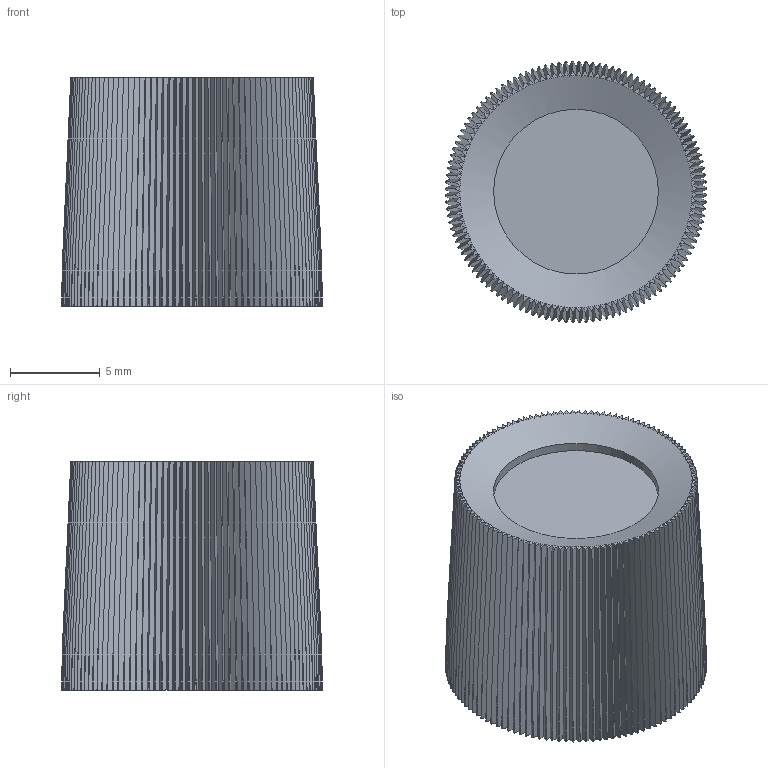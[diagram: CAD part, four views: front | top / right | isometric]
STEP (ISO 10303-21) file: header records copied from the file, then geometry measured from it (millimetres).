
FILE_DESCRIPTION(('STEP AP242 Edition 2','STEP AP242 Edition 2''CAx-IF Rec.Pracs.---Representation and Presentation of Product Manufacturing Information (PMI)---4.0---2014-10-13','STEP AP242 Edition 2''CAx-IF Rec.Pracs.---Representation and Presentation of Product Manufacturing Information (PMI)---4.0---2014-10-13''CAx-IF Rec.Pracs.---3D Tessellated Geometry---0.4---2014-09-14','STEP AP242 Edition 2''CAx-IF Rec.Pracs.---Representation and Presentation of Product Manufacturing Information (PMI)---4.0---2014-10-13''CAx-IF Rec.Pracs.---3D Tessellated Geometry---0.4---2014-09-14''2;1','STEP AP242 Edition 2''CAx-IF Rec.Pracs.---Representation and Presentation of Product Manufacturing Information (PMI)---4.0---2014-10-13''CAx-IF Rec.Pracs.---3D Tessellated Geometry---0.4---2014-09-14''2;1''CAx-IF Rec.Pracs.---User Defined Attributes---1.5---2016-08-15'),'2;1');
FILE_NAME('/vol/tmp/translate-14958899252267850940/3D_PCB_PCB_ESP32-sd-int_2026-03-29nosilk - Surface 6.step','2026-03-31T16:57:28',(''),(''),'ST-DEVELOPER v20','ONSHAPE BY PTC INC, 1.212',' ');
FILE_SCHEMA(('AP242_MANAGED_MODEL_BASED_3D_ENGINEERING_MIM_LF { 1 0 10303 442 3 1 4 }'));
Length unit declared in the file: metre
Products named in the file (1): Part 1
Bounding box: 14.56 x 14.56 x 12.75 mm (x, y, z)
Volume: 1717 mm3; surface area: 1542.3 mm2
Topology: 1 solids, 1 shells, 487 faces, 1451 edges, 967 vertices
Faces by surface type: plane 364, cone 121, cylinder 2
Full cylindrical faces by diameter (mm): 9.188 x1
Entity records: 16475 total; most frequent: DIRECTION 2908, CARTESIAN_POINT 2902, ORIENTED_EDGE 2896, EDGE_CURVE 1448, AXIS2_PLACEMENT_3D 972, VERTEX_POINT 966, LINE 964, VECTOR 964
